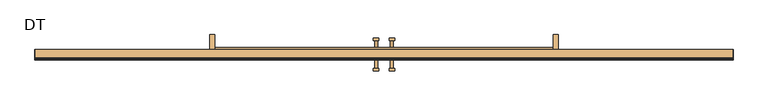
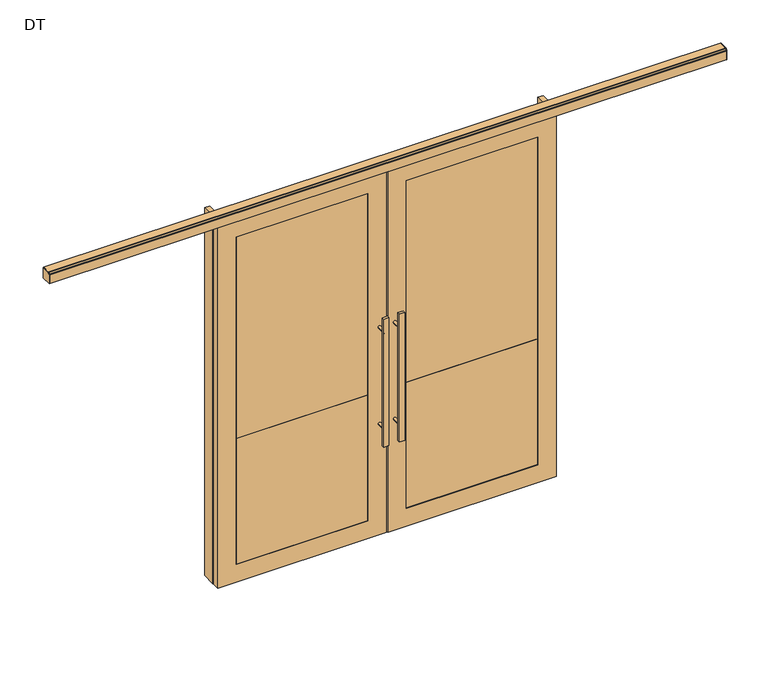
"""IFC4 building model written with IfcOpenShell, lengths in millimetres: door geometry, Mobiliário_Mobiliário de Escritório_Porta Dupla de Correr Mista Vidro Duplo com Persiana - DT_Marelli : DT."""

import ifcopenshell
import ifcopenshell.guid

model = None  # the IFC model being written
_history = None  # IfcOwnerHistory: only IFC2X3 demands one
_inside = {}  # id of a spatial element -> (the spatial element, [elements in it])
_under = {}  # id of a project, library or spatial element -> (it, [spatial elements below it])
_declared = {}  # id of a project -> (the project, [libraries it declares])
_typed = {}  # id of a type object -> (the type object, [elements of that type])
_made_of = {}  # id of a material, layer set ... -> (it, [elements and type objects made of it])


def new_model(schema):
    """Start an empty IFC model of exactly this schema.

    Asked for "IFC4X3", IfcOpenShell would pick the latest addendum, in which some entities
    have other attributes; the version numbers below select the first issue.
    IFC2X3 requires an IfcOwnerHistory on every rooted entity: one is made here for all.
    """
    global model, _history
    if schema == "IFC4X3":
        model = ifcopenshell.file(schema_version=(4, 3, 0, 0))
    else:
        model = ifcopenshell.file(schema=schema)
    _inside.clear()
    _under.clear()
    _declared.clear()
    _typed.clear()
    _made_of.clear()
    _history = None
    if model.schema == "IFC2X3":
        org = make("IfcOrganization", Name="unknown")
        user = make(
            "IfcPersonAndOrganization",
            ThePerson=make("IfcPerson", FamilyName="unknown"),
            TheOrganization=org,
        )
        app = make(
            "IfcApplication",
            ApplicationDeveloper=org,
            Version="unknown",
            ApplicationFullName="unknown",
            ApplicationIdentifier="unknown",
        )
        _history = make(
            "IfcOwnerHistory",
            OwningUser=user,
            OwningApplication=app,
            ChangeAction="ADDED",
            CreationDate=0,
        )
    return model


def make(cls, **values):
    """One entity of the class cls with the attributes given. An attribute that is None is left unset."""
    return model.create_entity(
        cls, **{name: value for name, value in values.items() if value is not None}
    )


def rooted(cls, **values):
    """An entity with a GlobalId (a new one), such as an element, a storey or a relation."""
    return make(cls, GlobalId=ifcopenshell.guid.new(), OwnerHistory=_history, **values)


def si_unit(unit_type, name, prefix=None):
    """IfcSIUnit, for example si_unit("LENGTHUNIT", "METRE", prefix="MILLI")."""
    return make("IfcSIUnit", UnitType=unit_type, Prefix=prefix, Name=name)


def assignment(units):
    """IfcUnitAssignment: the units of a project."""
    return None if units is None else make("IfcUnitAssignment", Units=units)


def point(xyz):
    """IfcCartesianPoint."""
    return None if xyz is None else make("IfcCartesianPoint", Coordinates=xyz)


def direction(xyz):
    """IfcDirection."""
    return None if xyz is None else make("IfcDirection", DirectionRatios=xyz)


def frame(location, z_axis=None, x_axis=None):
    """IfcAxis2Placement3D, a coordinate frame: its origin and axes. An axis left out is left unset."""
    return make(
        "IfcAxis2Placement3D",
        Location=point(location),
        Axis=direction(z_axis),
        RefDirection=direction(x_axis),
    )


def frame_2d(location, x_axis=None):
    """IfcAxis2Placement2D, a coordinate frame in the plane: its origin and x axis."""
    return make(
        "IfcAxis2Placement2D", Location=point(location), RefDirection=direction(x_axis)
    )


def origin():
    """The frame at (0, 0, 0) with its axes left unset."""
    return frame((0.0, 0.0, 0.0))


def origin_with_axes():
    """The frame at (0, 0, 0) with the z axis (0, 0, 1) and the x axis (1, 0, 0) written out."""
    return frame((0.0, 0.0, 0.0), z_axis=(0.0, 0.0, 1.0), x_axis=(1.0, 0.0, 0.0))


def place(relative_to, where):
    """IfcLocalPlacement: puts the frame where relative to a parent placement (None: the world)."""
    return make(
        "IfcLocalPlacement", PlacementRelTo=relative_to, RelativePlacement=where
    )


def context(
    kind, dimensions, precision=None, world=None, true_north=None, identifier=None
):
    """IfcGeometricRepresentationContext, for example the 3D "Model" context."""
    return make(
        "IfcGeometricRepresentationContext",
        ContextIdentifier=identifier,
        ContextType=kind,
        CoordinateSpaceDimension=dimensions,
        Precision=precision,
        WorldCoordinateSystem=world,
        TrueNorth=true_north,
    )


def project(units=None, contexts=None):
    """IfcProject with its units and contexts."""
    return rooted(
        "IfcProject",
        Name="project",
        RepresentationContexts=contexts,
        UnitsInContext=assignment(units),
    )


def spatial(cls, under=None, at=None, **own):
    """A site, building, storey or space (cls), placed at a placement, below another one or the project."""
    s = rooted(cls, ObjectPlacement=at, **own)
    if under is not None:
        _under.setdefault(under.id(), (under, []))[1].append(s)
    return s


def polyline(points):
    """IfcPolyline through the points."""
    return make("IfcPolyline", Points=[point(p) for p in points])


def circle_curve(where, radius):
    """IfcCircle in the frame where."""
    return make("IfcCircle", Position=where, Radius=radius)


def trimmed(basis, trim1, trim2, sense, master):
    """IfcTrimmedCurve: the piece of a basis curve between two trims."""
    return make(
        "IfcTrimmedCurve",
        BasisCurve=basis,
        Trim1=trim1,
        Trim2=trim2,
        SenseAgreement=sense,
        MasterRepresentation=master,
    )


def segment(curve, same_sense, transition):
    """IfcCompositeCurveSegment."""
    return make(
        "IfcCompositeCurveSegment",
        Transition=transition,
        SameSense=same_sense,
        ParentCurve=curve,
    )


def composite_curve(segments, self_intersect=None):
    """IfcCompositeCurve: segments joined end to end."""
    return make("IfcCompositeCurve", Segments=segments, SelfIntersect=self_intersect)


def outline(outer, holes=None, kind="AREA"):
    """IfcArbitraryClosedProfileDef: a profile drawn as a closed curve; with holes, ...WithVoids."""
    if holes is None:
        return make("IfcArbitraryClosedProfileDef", ProfileType=kind, OuterCurve=outer)
    return make(
        "IfcArbitraryProfileDefWithVoids",
        ProfileType=kind,
        OuterCurve=outer,
        InnerCurves=holes,
    )


def extrude(swept, where, along, depth):
    """IfcExtrudedAreaSolid: the profile swept, set in the frame where, extruded along a direction by depth."""
    return make(
        "IfcExtrudedAreaSolid",
        SweptArea=swept,
        Position=where,
        ExtrudedDirection=direction(along),
        Depth=depth,
    )


def shape(context_of_items, identifier, shape_type, items):
    """IfcShapeRepresentation: the items that make up one representation, for example the "Body"."""
    return make(
        "IfcShapeRepresentation",
        ContextOfItems=context_of_items,
        RepresentationIdentifier=identifier,
        RepresentationType=shape_type,
        Items=items,
    )


def source(mapping_origin, context_of_items, identifier, shape_type, items):
    """IfcRepresentationMap: a shape defined once, which mapped items show again and again."""
    return make(
        "IfcRepresentationMap",
        MappingOrigin=mapping_origin,
        MappedRepresentation=shape(context_of_items, identifier, shape_type, items),
    )


def transform(
    local_origin,
    x_axis=None,
    y_axis=None,
    z_axis=None,
    scale=None,
    scale2=None,
    scale3=None,
    uniform=True,
):
    """IfcCartesianTransformationOperator3D, or its non-uniform kind. x_axis, y_axis, z_axis: its Axis1, 2, 3."""
    if uniform:
        return make(
            "IfcCartesianTransformationOperator3D",
            Axis1=direction(x_axis),
            Axis2=direction(y_axis),
            LocalOrigin=point(local_origin),
            Scale=scale,
            Axis3=direction(z_axis),
        )
    return make(
        "IfcCartesianTransformationOperator3DnonUniform",
        Axis1=direction(x_axis),
        Axis2=direction(y_axis),
        LocalOrigin=point(local_origin),
        Scale=scale,
        Axis3=direction(z_axis),
        Scale2=scale2,
        Scale3=scale3,
    )


def mapped(mapping_source, mapping_target):
    """IfcMappedItem: shows the shape of a source again, moved by a transform."""
    return make(
        "IfcMappedItem", MappingSource=mapping_source, MappingTarget=mapping_target
    )


def made_of(thing, what):
    """Note that an element or type object is made of a material, layer set ...; save() writes the relation."""
    if what is not None:
        _made_of.setdefault(what.id(), (what, []))[1].append(thing)
    return thing


def element(
    cls,
    number,
    at=None,
    inside=None,
    cuts=None,
    type_object=None,
    material=None,
    context=None,
    identifier="Body",
    shape_type=None,
    held_by="IfcProductDefinitionShape",
    body=None,
    shapes=None,
    **own,
):
    """One element of the class cls, such as IfcWall. Its Tag is "e" and its number.

    at: its placement. inside: the storey or other place that contains it. cuts: it is an
    opening in that element (IfcRelVoidsElement). A single representation is given by context,
    identifier, shape_type and body (its items); several are given by shapes. held_by: the class
    of the entity that holds the representations. save() writes the other relations.
    """
    e = rooted(cls, Tag="e%d" % number, ObjectPlacement=at, **own)
    if body is not None:
        shapes = [shape(context, identifier, shape_type, body)]
    if shapes is not None:
        e.Representation = make(held_by, Representations=shapes)
    if inside is not None:
        _inside.setdefault(inside.id(), (inside, []))[1].append(e)
    if cuts is not None:
        rooted(
            "IfcRelVoidsElement", RelatingBuildingElement=cuts, RelatedOpeningElement=e
        )
    if type_object is not None:
        _typed.setdefault(type_object.id(), (type_object, []))[1].append(e)
    return made_of(e, material)


def aggregate(whole, parts):
    """IfcRelAggregates: a whole, such as a stair, and the parts it consists of."""
    return rooted("IfcRelAggregates", RelatingObject=whole, RelatedObjects=parts)


def save(model, path):
    """Write the relations noted so far, then the file.

    IfcRelAggregates (storeys below a building ...), IfcRelContainedInSpatialStructure (elements
    in a storey), IfcRelDefinesByType, IfcRelAssociatesMaterial and IfcRelDeclares: one each for
    every whole, place, type object, material and project.
    """
    for whole, parts in _under.values():
        aggregate(whole, parts)
    for where, things in _inside.values():
        rooted(
            "IfcRelContainedInSpatialStructure",
            RelatedElements=things,
            RelatingStructure=where,
        )
    for kind, things in _typed.values():
        rooted("IfcRelDefinesByType", RelatedObjects=things, RelatingType=kind)
    for what, things in _made_of.values():
        rooted("IfcRelAssociatesMaterial", RelatedObjects=things, RelatingMaterial=what)
    for by, libraries in _declared.values():
        rooted("IfcRelDeclares", RelatingContext=by, RelatedDefinitions=libraries)
    model.write(path)


def dt_20cca38d(model_context):
    return source(origin(), model_context, "Body", "SweptSolid", [
        extrude(outline(polyline([(348.5735443, -15.0), (378.5735443, -15.0), (378.5735443, -100.0), (348.5735443, -100.0), (348.5735443, -15.0)])), origin_with_axes(), (0.0, 0.0, 1.0), 2300.0),
        extrude(outline(polyline([(2348.5735443, -15.0), (2348.5735443, -100.0), (2318.5735443, -100.0), (2318.5735443, -15.0), (2348.5735443, -15.0)])), origin_with_axes(), (0.0, 0.0, 1.0), 2300.0),
        extrude(outline(polyline([(1287.4735443, -223.7), (1287.4735443, -208.7), (1317.4735443, -208.7), (1317.4735443, -223.7), (1287.4735443, -223.7)])), frame((0.0, 0.0, 600.0), z_axis=(0.0, 0.0, 1.0), x_axis=(1.0, 0.0, 0.0)), (0.0, 0.0, 1.0), 800.0),
        extrude(outline(composite_curve([segment(trimmed(circle_curve(frame_2d((698.0, 1303.6014077)), 8.0), [point((698.0, 1295.6014077))], [point((698.0, 1311.6014077))], False, "CARTESIAN"), True, "CONTINUOUS"), segment(trimmed(circle_curve(frame_2d((698.0, 1303.6014077)), 8.0), [point((698.0, 1311.6014077))], [point((698.0, 1295.6014077))], False, "CARTESIAN"), True, "CONTINUOUS")], self_intersect=False)), frame((0.0, -208.7, 0.0), z_axis=(0.0, 1.0, 0.0), x_axis=(0.0, 0.0, 1.0)), (0.0, 0.0, 1.0), 58.7),
        extrude(outline(composite_curve([segment(trimmed(circle_curve(frame_2d((1302.0, 1303.6014077)), 8.0), [point((1302.0, 1295.6014077))], [point((1302.0, 1311.6014077))], False, "CARTESIAN"), True, "CONTINUOUS"), segment(trimmed(circle_curve(frame_2d((1302.0, 1303.6014077)), 8.0), [point((1302.0, 1311.6014077))], [point((1302.0, 1295.6014077))], False, "CARTESIAN"), True, "CONTINUOUS")], self_intersect=False)), frame((0.0, -208.7, 0.0), z_axis=(0.0, 1.0, 0.0), x_axis=(0.0, 0.0, 1.0)), (0.0, 0.0, 1.0), 58.7),
        extrude(outline(polyline([(1287.4735443, -34.3), (1317.4735443, -34.3), (1317.4735443, -49.3), (1287.4735443, -49.3), (1287.4735443, -34.3)])), frame((0.0, 0.0, 600.0), z_axis=(0.0, 0.0, 1.0), x_axis=(1.0, 0.0, 0.0)), (0.0, 0.0, 1.0), 800.0),
        extrude(outline(composite_curve([segment(trimmed(circle_curve(frame_2d((698.0, 1303.6014077)), 8.0), [point((698.0, 1295.6014077))], [point((698.0, 1311.6014077))], False, "CARTESIAN"), True, "CONTINUOUS"), segment(trimmed(circle_curve(frame_2d((698.0, 1303.6014077)), 8.0), [point((698.0, 1311.6014077))], [point((698.0, 1295.6014077))], False, "CARTESIAN"), True, "CONTINUOUS")], self_intersect=False)), frame((0.0, -108.0, 0.0), z_axis=(0.0, 1.0, 0.0), x_axis=(0.0, 0.0, 1.0)), (0.0, 0.0, 1.0), 58.7),
        extrude(outline(composite_curve([segment(trimmed(circle_curve(frame_2d((1302.0, 1303.6014077)), 8.0), [point((1302.0, 1295.6014077))], [point((1302.0, 1311.6014077))], False, "CARTESIAN"), True, "CONTINUOUS"), segment(trimmed(circle_curve(frame_2d((1302.0, 1303.6014077)), 8.0), [point((1302.0, 1311.6014077))], [point((1302.0, 1295.6014077))], False, "CARTESIAN"), True, "CONTINUOUS")], self_intersect=False)), frame((0.0, -108.0, 0.0), z_axis=(0.0, 1.0, 0.0), x_axis=(0.0, 0.0, 1.0)), (0.0, 0.0, 1.0), 58.7),
        extrude(outline(polyline([(1409.6735443, -223.7), (1379.6735443, -223.7), (1379.6735443, -208.7), (1409.6735443, -208.7), (1409.6735443, -223.7)])), frame((0.0, 0.0, 600.0), z_axis=(0.0, 0.0, 1.0), x_axis=(1.0, 0.0, 0.0)), (0.0, 0.0, 1.0), 800.0),
        extrude(outline(composite_curve([segment(trimmed(circle_curve(frame_2d((698.0, 1393.545681)), 8.0), [point((698.0, 1401.545681))], [point((698.0, 1385.545681))], False, "CARTESIAN"), True, "CONTINUOUS"), segment(trimmed(circle_curve(frame_2d((698.0, 1393.545681)), 8.0), [point((698.0, 1385.545681))], [point((698.0, 1401.545681))], False, "CARTESIAN"), True, "CONTINUOUS")], self_intersect=False)), frame((0.0, -208.7, 0.0), z_axis=(0.0, 1.0, 0.0), x_axis=(0.0, 0.0, 1.0)), (0.0, 0.0, 1.0), 58.7),
        extrude(outline(composite_curve([segment(trimmed(circle_curve(frame_2d((1302.0, 1393.545681)), 8.0), [point((1302.0, 1401.545681))], [point((1302.0, 1385.545681))], False, "CARTESIAN"), True, "CONTINUOUS"), segment(trimmed(circle_curve(frame_2d((1302.0, 1393.545681)), 8.0), [point((1302.0, 1385.545681))], [point((1302.0, 1401.545681))], False, "CARTESIAN"), True, "CONTINUOUS")], self_intersect=False)), frame((0.0, -208.7, 0.0), z_axis=(0.0, 1.0, 0.0), x_axis=(0.0, 0.0, 1.0)), (0.0, 0.0, 1.0), 58.7),
        extrude(outline(polyline([(1409.6735443, -34.3), (1409.6735443, -49.3), (1379.6735443, -49.3), (1379.6735443, -34.3), (1409.6735443, -34.3)])), frame((0.0, 0.0, 600.0), z_axis=(0.0, 0.0, 1.0), x_axis=(1.0, 0.0, 0.0)), (0.0, 0.0, 1.0), 800.0),
        extrude(outline(composite_curve([segment(trimmed(circle_curve(frame_2d((698.0, 1393.545681)), 8.0), [point((698.0, 1401.545681))], [point((698.0, 1385.545681))], False, "CARTESIAN"), True, "CONTINUOUS"), segment(trimmed(circle_curve(frame_2d((698.0, 1393.545681)), 8.0), [point((698.0, 1385.545681))], [point((698.0, 1401.545681))], False, "CARTESIAN"), True, "CONTINUOUS")], self_intersect=False)), frame((0.0, -108.0, 0.0), z_axis=(0.0, 1.0, 0.0), x_axis=(0.0, 0.0, 1.0)), (0.0, 0.0, 1.0), 58.7),
        extrude(outline(composite_curve([segment(trimmed(circle_curve(frame_2d((1302.0, 1393.545681)), 8.0), [point((1302.0, 1401.545681))], [point((1302.0, 1385.545681))], False, "CARTESIAN"), True, "CONTINUOUS"), segment(trimmed(circle_curve(frame_2d((1302.0, 1393.545681)), 8.0), [point((1302.0, 1385.545681))], [point((1302.0, 1401.545681))], False, "CARTESIAN"), True, "CONTINUOUS")], self_intersect=False)), frame((0.0, -108.0, 0.0), z_axis=(0.0, 1.0, 0.0), x_axis=(0.0, 0.0, 1.0)), (0.0, 0.0, 1.0), 58.7),
        extrude(outline(polyline([(2270.0, 348.5735443), (2.0, 348.5735443), (2.0, 1345.5735443), (2270.0, 1345.5735443), (2270.0, 348.5735443)]), holes=[polyline([(2160.0, 1235.5735443), (112.0, 1235.5735443), (112.0, 458.5735443), (2160.0, 458.5735443), (2160.0, 1235.5735443)])]), frame((0.0, -150.0, 0.0), z_axis=(0.0, 1.0, 0.0), x_axis=(0.0, 0.0, 1.0)), (0.0, 0.0, 1.0), 42.0),
        extrude(outline(polyline([(2270.0, 1351.5735443), (2.0, 1351.5735443), (2.0, 2348.5735443), (2270.0, 2348.5735443), (2270.0, 1351.5735443)]), holes=[polyline([(2160.0, 2238.5735443), (112.0, 2238.5735443), (112.0, 1461.5735443), (2160.0, 1461.5735443), (2160.0, 2238.5735443)])]), frame((0.0, -150.0, 0.0), z_axis=(0.0, 1.0, 0.0), x_axis=(0.0, 0.0, 1.0)), (0.0, 0.0, 1.0), 42.0),
        extrude(outline(polyline([(1235.5735443, -141.5), (1235.5735443, -147.5), (458.5735443, -147.5), (458.5735443, -141.5), (1235.5735443, -141.5)])), frame((0.0, 0.0, 899.0), z_axis=(0.0, 0.0, 1.0), x_axis=(1.0, 0.0, 0.0)), (0.0, 0.0, 1.0), 1261.0),
        extrude(outline(polyline([(1235.5735443, -116.5), (458.5735443, -116.5), (458.5735443, -110.5), (1235.5735443, -110.5), (1235.5735443, -116.5)])), frame((0.0, 0.0, 899.0), z_axis=(0.0, 0.0, 1.0), x_axis=(1.0, 0.0, 0.0)), (0.0, 0.0, 1.0), 1261.0),
        extrude(outline(polyline([(1461.5735443, -141.5), (2238.5735443, -141.5), (2238.5735443, -147.5), (1461.5735443, -147.5), (1461.5735443, -141.5)])), frame((0.0, 0.0, 899.0), z_axis=(0.0, 0.0, 1.0), x_axis=(1.0, 0.0, 0.0)), (0.0, 0.0, 1.0), 1261.0),
        extrude(outline(polyline([(1461.5735443, -116.5), (1461.5735443, -110.5), (2238.5735443, -110.5), (2238.5735443, -116.5), (1461.5735443, -116.5)])), frame((0.0, 0.0, 899.0), z_axis=(0.0, 0.0, 1.0), x_axis=(1.0, 0.0, 0.0)), (0.0, 0.0, 1.0), 1261.0),
        extrude(outline(polyline([(1235.5735443, -122.1216022), (1235.5735443, -138.1216022), (458.5735443, -138.1216022), (458.5735443, -122.1216022), (1235.5735443, -122.1216022)])), frame((0.0, 0.0, 1181.2), z_axis=(0.0, 0.0, 1.0), x_axis=(1.0, 0.0, 0.0)), (0.0, 0.0, 1.0), 0.8),
        extrude(outline(polyline([(1235.5735443, -122.1216022), (1235.5735443, -138.1216022), (458.5735443, -138.1216022), (458.5735443, -122.1216022), (1235.5735443, -122.1216022)])), frame((0.0, 0.0, 1151.2), z_axis=(0.0, 0.0, 1.0), x_axis=(1.0, 0.0, 0.0)), (0.0, 0.0, 1.0), 0.8),
        extrude(outline(polyline([(1235.5735443, -122.1216022), (1235.5735443, -138.1216022), (458.5735443, -138.1216022), (458.5735443, -122.1216022), (1235.5735443, -122.1216022)])), frame((0.0, 0.0, 1121.2), z_axis=(0.0, 0.0, 1.0), x_axis=(1.0, 0.0, 0.0)), (0.0, 0.0, 1.0), 0.8),
        extrude(outline(polyline([(1235.5735443, -122.1216022), (1235.5735443, -138.1216022), (458.5735443, -138.1216022), (458.5735443, -122.1216022), (1235.5735443, -122.1216022)])), frame((0.0, 0.0, 1091.2), z_axis=(0.0, 0.0, 1.0), x_axis=(1.0, 0.0, 0.0)), (0.0, 0.0, 1.0), 0.8),
        extrude(outline(polyline([(1235.5735443, -122.1216022), (1235.5735443, -138.1216022), (458.5735443, -138.1216022), (458.5735443, -122.1216022), (1235.5735443, -122.1216022)])), frame((0.0, 0.0, 1061.2), z_axis=(0.0, 0.0, 1.0), x_axis=(1.0, 0.0, 0.0)), (0.0, 0.0, 1.0), 0.8),
        extrude(outline(polyline([(1235.5735443, -122.1216022), (1235.5735443, -138.1216022), (458.5735443, -138.1216022), (458.5735443, -122.1216022), (1235.5735443, -122.1216022)])), frame((0.0, 0.0, 1031.2), z_axis=(0.0, 0.0, 1.0), x_axis=(1.0, 0.0, 0.0)), (0.0, 0.0, 1.0), 0.8),
        extrude(outline(polyline([(1235.5735443, -122.1216022), (1235.5735443, -138.1216022), (458.5735443, -138.1216022), (458.5735443, -122.1216022), (1235.5735443, -122.1216022)])), frame((0.0, 0.0, 1001.2), z_axis=(0.0, 0.0, 1.0), x_axis=(1.0, 0.0, 0.0)), (0.0, 0.0, 1.0), 0.8),
        extrude(outline(polyline([(1235.5735443, -122.1216022), (1235.5735443, -138.1216022), (458.5735443, -138.1216022), (458.5735443, -122.1216022), (1235.5735443, -122.1216022)])), frame((0.0, 0.0, 971.2), z_axis=(0.0, 0.0, 1.0), x_axis=(1.0, 0.0, 0.0)), (0.0, 0.0, 1.0), 0.8),
        extrude(outline(polyline([(1235.5735443, -122.1216022), (1235.5735443, -138.1216022), (458.5735443, -138.1216022), (458.5735443, -122.1216022), (1235.5735443, -122.1216022)])), frame((0.0, 0.0, 911.2), z_axis=(0.0, 0.0, 1.0), x_axis=(1.0, 0.0, 0.0)), (0.0, 0.0, 1.0), 0.8),
        extrude(outline(polyline([(1235.5735443, -122.1216022), (1235.5735443, -138.1216022), (458.5735443, -138.1216022), (458.5735443, -122.1216022), (1235.5735443, -122.1216022)])), frame((0.0, 0.0, 941.2), z_axis=(0.0, 0.0, 1.0), x_axis=(1.0, 0.0, 0.0)), (0.0, 0.0, 1.0), 0.8),
        extrude(outline(polyline([(1235.5735443, -122.1216022), (1235.5735443, -138.1216022), (458.5735443, -138.1216022), (458.5735443, -122.1216022), (1235.5735443, -122.1216022)])), frame((0.0, 0.0, 2111.2), z_axis=(0.0, 0.0, 1.0), x_axis=(1.0, 0.0, 0.0)), (0.0, 0.0, 1.0), 0.8),
        extrude(outline(polyline([(1235.5735443, -122.1216022), (1235.5735443, -138.1216022), (458.5735443, -138.1216022), (458.5735443, -122.1216022), (1235.5735443, -122.1216022)])), frame((0.0, 0.0, 2081.2), z_axis=(0.0, 0.0, 1.0), x_axis=(1.0, 0.0, 0.0)), (0.0, 0.0, 1.0), 0.8),
        extrude(outline(polyline([(1235.5735443, -122.1216022), (1235.5735443, -138.1216022), (458.5735443, -138.1216022), (458.5735443, -122.1216022), (1235.5735443, -122.1216022)])), frame((0.0, 0.0, 2051.2), z_axis=(0.0, 0.0, 1.0), x_axis=(1.0, 0.0, 0.0)), (0.0, 0.0, 1.0), 0.8),
        extrude(outline(polyline([(1235.5735443, -122.1216022), (1235.5735443, -138.1216022), (458.5735443, -138.1216022), (458.5735443, -122.1216022), (1235.5735443, -122.1216022)])), frame((0.0, 0.0, 2021.2), z_axis=(0.0, 0.0, 1.0), x_axis=(1.0, 0.0, 0.0)), (0.0, 0.0, 1.0), 0.8),
        extrude(outline(polyline([(1235.5735443, -122.1216022), (1235.5735443, -138.1216022), (458.5735443, -138.1216022), (458.5735443, -122.1216022), (1235.5735443, -122.1216022)])), frame((0.0, 0.0, 1991.2), z_axis=(0.0, 0.0, 1.0), x_axis=(1.0, 0.0, 0.0)), (0.0, 0.0, 1.0), 0.8),
        extrude(outline(polyline([(1235.5735443, -122.1216022), (1235.5735443, -138.1216022), (458.5735443, -138.1216022), (458.5735443, -122.1216022), (1235.5735443, -122.1216022)])), frame((0.0, 0.0, 1961.2), z_axis=(0.0, 0.0, 1.0), x_axis=(1.0, 0.0, 0.0)), (0.0, 0.0, 1.0), 0.8),
        extrude(outline(polyline([(1235.5735443, -122.1216022), (1235.5735443, -138.1216022), (458.5735443, -138.1216022), (458.5735443, -122.1216022), (1235.5735443, -122.1216022)])), frame((0.0, 0.0, 1931.2), z_axis=(0.0, 0.0, 1.0), x_axis=(1.0, 0.0, 0.0)), (0.0, 0.0, 1.0), 0.8),
        extrude(outline(polyline([(1235.5735443, -122.1216022), (1235.5735443, -138.1216022), (458.5735443, -138.1216022), (458.5735443, -122.1216022), (1235.5735443, -122.1216022)])), frame((0.0, 0.0, 1901.2), z_axis=(0.0, 0.0, 1.0), x_axis=(1.0, 0.0, 0.0)), (0.0, 0.0, 1.0), 0.8),
        extrude(outline(polyline([(1235.5735443, -122.1216022), (1235.5735443, -138.1216022), (458.5735443, -138.1216022), (458.5735443, -122.1216022), (1235.5735443, -122.1216022)])), frame((0.0, 0.0, 1871.2), z_axis=(0.0, 0.0, 1.0), x_axis=(1.0, 0.0, 0.0)), (0.0, 0.0, 1.0), 0.8),
        extrude(outline(polyline([(1235.5735443, -122.1216022), (1235.5735443, -138.1216022), (458.5735443, -138.1216022), (458.5735443, -122.1216022), (1235.5735443, -122.1216022)])), frame((0.0, 0.0, 1841.2), z_axis=(0.0, 0.0, 1.0), x_axis=(1.0, 0.0, 0.0)), (0.0, 0.0, 1.0), 0.8),
        extrude(outline(polyline([(1235.5735443, -122.1216022), (1235.5735443, -138.1216022), (458.5735443, -138.1216022), (458.5735443, -122.1216022), (1235.5735443, -122.1216022)])), frame((0.0, 0.0, 1811.2), z_axis=(0.0, 0.0, 1.0), x_axis=(1.0, 0.0, 0.0)), (0.0, 0.0, 1.0), 0.8),
        extrude(outline(polyline([(1235.5735443, -122.1216022), (1235.5735443, -138.1216022), (458.5735443, -138.1216022), (458.5735443, -122.1216022), (1235.5735443, -122.1216022)])), frame((0.0, 0.0, 1781.2), z_axis=(0.0, 0.0, 1.0), x_axis=(1.0, 0.0, 0.0)), (0.0, 0.0, 1.0), 0.8),
        extrude(outline(polyline([(1235.5735443, -122.1216022), (1235.5735443, -138.1216022), (458.5735443, -138.1216022), (458.5735443, -122.1216022), (1235.5735443, -122.1216022)])), frame((0.0, 0.0, 1751.2), z_axis=(0.0, 0.0, 1.0), x_axis=(1.0, 0.0, 0.0)), (0.0, 0.0, 1.0), 0.8),
        extrude(outline(polyline([(1235.5735443, -122.1216022), (1235.5735443, -138.1216022), (458.5735443, -138.1216022), (458.5735443, -122.1216022), (1235.5735443, -122.1216022)])), frame((0.0, 0.0, 1721.2), z_axis=(0.0, 0.0, 1.0), x_axis=(1.0, 0.0, 0.0)), (0.0, 0.0, 1.0), 0.8),
        extrude(outline(polyline([(1235.5735443, -122.1216022), (1235.5735443, -138.1216022), (458.5735443, -138.1216022), (458.5735443, -122.1216022), (1235.5735443, -122.1216022)])), frame((0.0, 0.0, 1691.2), z_axis=(0.0, 0.0, 1.0), x_axis=(1.0, 0.0, 0.0)), (0.0, 0.0, 1.0), 0.8),
        extrude(outline(polyline([(1235.5735443, -122.1216022), (1235.5735443, -138.1216022), (458.5735443, -138.1216022), (458.5735443, -122.1216022), (1235.5735443, -122.1216022)])), frame((0.0, 0.0, 1661.2), z_axis=(0.0, 0.0, 1.0), x_axis=(1.0, 0.0, 0.0)), (0.0, 0.0, 1.0), 0.8),
        extrude(outline(polyline([(1235.5735443, -122.1216022), (1235.5735443, -138.1216022), (458.5735443, -138.1216022), (458.5735443, -122.1216022), (1235.5735443, -122.1216022)])), frame((0.0, 0.0, 1631.2), z_axis=(0.0, 0.0, 1.0), x_axis=(1.0, 0.0, 0.0)), (0.0, 0.0, 1.0), 0.8),
        extrude(outline(polyline([(1235.5735443, -122.1216022), (1235.5735443, -138.1216022), (458.5735443, -138.1216022), (458.5735443, -122.1216022), (1235.5735443, -122.1216022)])), frame((0.0, 0.0, 1601.2), z_axis=(0.0, 0.0, 1.0), x_axis=(1.0, 0.0, 0.0)), (0.0, 0.0, 1.0), 0.8),
        extrude(outline(polyline([(1235.5735443, -122.1216022), (1235.5735443, -138.1216022), (458.5735443, -138.1216022), (458.5735443, -122.1216022), (1235.5735443, -122.1216022)])), frame((0.0, 0.0, 1571.2), z_axis=(0.0, 0.0, 1.0), x_axis=(1.0, 0.0, 0.0)), (0.0, 0.0, 1.0), 0.8),
        extrude(outline(polyline([(1235.5735443, -122.1216022), (1235.5735443, -138.1216022), (458.5735443, -138.1216022), (458.5735443, -122.1216022), (1235.5735443, -122.1216022)])), frame((0.0, 0.0, 1541.2), z_axis=(0.0, 0.0, 1.0), x_axis=(1.0, 0.0, 0.0)), (0.0, 0.0, 1.0), 0.8),
        extrude(outline(polyline([(1235.5735443, -122.1216022), (1235.5735443, -138.1216022), (458.5735443, -138.1216022), (458.5735443, -122.1216022), (1235.5735443, -122.1216022)])), frame((0.0, 0.0, 1511.2), z_axis=(0.0, 0.0, 1.0), x_axis=(1.0, 0.0, 0.0)), (0.0, 0.0, 1.0), 0.8),
        extrude(outline(polyline([(1235.5735443, -122.1216022), (1235.5735443, -138.1216022), (458.5735443, -138.1216022), (458.5735443, -122.1216022), (1235.5735443, -122.1216022)])), frame((0.0, 0.0, 1481.2), z_axis=(0.0, 0.0, 1.0), x_axis=(1.0, 0.0, 0.0)), (0.0, 0.0, 1.0), 0.8),
        extrude(outline(polyline([(1235.5735443, -122.1216022), (1235.5735443, -138.1216022), (458.5735443, -138.1216022), (458.5735443, -122.1216022), (1235.5735443, -122.1216022)])), frame((0.0, 0.0, 1451.2), z_axis=(0.0, 0.0, 1.0), x_axis=(1.0, 0.0, 0.0)), (0.0, 0.0, 1.0), 0.8),
        extrude(outline(polyline([(1235.5735443, -122.1216022), (1235.5735443, -138.1216022), (458.5735443, -138.1216022), (458.5735443, -122.1216022), (1235.5735443, -122.1216022)])), frame((0.0, 0.0, 1421.2), z_axis=(0.0, 0.0, 1.0), x_axis=(1.0, 0.0, 0.0)), (0.0, 0.0, 1.0), 0.8),
        extrude(outline(polyline([(1235.5735443, -122.1216022), (1235.5735443, -138.1216022), (458.5735443, -138.1216022), (458.5735443, -122.1216022), (1235.5735443, -122.1216022)])), frame((0.0, 0.0, 1391.2), z_axis=(0.0, 0.0, 1.0), x_axis=(1.0, 0.0, 0.0)), (0.0, 0.0, 1.0), 0.8),
        extrude(outline(polyline([(1235.5735443, -122.1216022), (1235.5735443, -138.1216022), (458.5735443, -138.1216022), (458.5735443, -122.1216022), (1235.5735443, -122.1216022)])), frame((0.0, 0.0, 1361.2), z_axis=(0.0, 0.0, 1.0), x_axis=(1.0, 0.0, 0.0)), (0.0, 0.0, 1.0), 0.8),
        extrude(outline(polyline([(1235.5735443, -122.1216022), (1235.5735443, -138.1216022), (458.5735443, -138.1216022), (458.5735443, -122.1216022), (1235.5735443, -122.1216022)])), frame((0.0, 0.0, 1331.2), z_axis=(0.0, 0.0, 1.0), x_axis=(1.0, 0.0, 0.0)), (0.0, 0.0, 1.0), 0.8),
        extrude(outline(polyline([(1235.5735443, -122.1216022), (1235.5735443, -138.1216022), (458.5735443, -138.1216022), (458.5735443, -122.1216022), (1235.5735443, -122.1216022)])), frame((0.0, 0.0, 1301.2), z_axis=(0.0, 0.0, 1.0), x_axis=(1.0, 0.0, 0.0)), (0.0, 0.0, 1.0), 0.8),
        extrude(outline(polyline([(1235.5735443, -122.1216022), (1235.5735443, -138.1216022), (458.5735443, -138.1216022), (458.5735443, -122.1216022), (1235.5735443, -122.1216022)])), frame((0.0, 0.0, 1271.2), z_axis=(0.0, 0.0, 1.0), x_axis=(1.0, 0.0, 0.0)), (0.0, 0.0, 1.0), 0.8),
        extrude(outline(polyline([(1235.5735443, -122.1216022), (1235.5735443, -138.1216022), (458.5735443, -138.1216022), (458.5735443, -122.1216022), (1235.5735443, -122.1216022)])), frame((0.0, 0.0, 1241.2), z_axis=(0.0, 0.0, 1.0), x_axis=(1.0, 0.0, 0.0)), (0.0, 0.0, 1.0), 0.8),
        extrude(outline(polyline([(1235.5735443, -122.1216022), (1235.5735443, -138.1216022), (458.5735443, -138.1216022), (458.5735443, -122.1216022), (1235.5735443, -122.1216022)])), frame((0.0, 0.0, 1211.2), z_axis=(0.0, 0.0, 1.0), x_axis=(1.0, 0.0, 0.0)), (0.0, 0.0, 1.0), 0.8),
        extrude(outline(polyline([(1461.5735443, -138.1216022), (1461.5735443, -122.1216022), (2238.5735443, -122.1216022), (2238.5735443, -138.1216022), (1461.5735443, -138.1216022)])), frame((0.0, 0.0, 1181.2), z_axis=(0.0, 0.0, 1.0), x_axis=(1.0, 0.0, 0.0)), (0.0, 0.0, 1.0), 0.8),
        extrude(outline(polyline([(1461.5735443, -138.1216022), (1461.5735443, -122.1216022), (2238.5735443, -122.1216022), (2238.5735443, -138.1216022), (1461.5735443, -138.1216022)])), frame((0.0, 0.0, 1151.2), z_axis=(0.0, 0.0, 1.0), x_axis=(1.0, 0.0, 0.0)), (0.0, 0.0, 1.0), 0.8),
        extrude(outline(polyline([(1461.5735443, -138.1216022), (1461.5735443, -122.1216022), (2238.5735443, -122.1216022), (2238.5735443, -138.1216022), (1461.5735443, -138.1216022)])), frame((0.0, 0.0, 1121.2), z_axis=(0.0, 0.0, 1.0), x_axis=(1.0, 0.0, 0.0)), (0.0, 0.0, 1.0), 0.8),
        extrude(outline(polyline([(1461.5735443, -138.1216022), (1461.5735443, -122.1216022), (2238.5735443, -122.1216022), (2238.5735443, -138.1216022), (1461.5735443, -138.1216022)])), frame((0.0, 0.0, 1091.2), z_axis=(0.0, 0.0, 1.0), x_axis=(1.0, 0.0, 0.0)), (0.0, 0.0, 1.0), 0.8),
        extrude(outline(polyline([(1461.5735443, -138.1216022), (1461.5735443, -122.1216022), (2238.5735443, -122.1216022), (2238.5735443, -138.1216022), (1461.5735443, -138.1216022)])), frame((0.0, 0.0, 1061.2), z_axis=(0.0, 0.0, 1.0), x_axis=(1.0, 0.0, 0.0)), (0.0, 0.0, 1.0), 0.8),
        extrude(outline(polyline([(1461.5735443, -138.1216022), (1461.5735443, -122.1216022), (2238.5735443, -122.1216022), (2238.5735443, -138.1216022), (1461.5735443, -138.1216022)])), frame((0.0, 0.0, 1031.2), z_axis=(0.0, 0.0, 1.0), x_axis=(1.0, 0.0, 0.0)), (0.0, 0.0, 1.0), 0.8),
        extrude(outline(polyline([(1461.5735443, -138.1216022), (1461.5735443, -122.1216022), (2238.5735443, -122.1216022), (2238.5735443, -138.1216022), (1461.5735443, -138.1216022)])), frame((0.0, 0.0, 1001.2), z_axis=(0.0, 0.0, 1.0), x_axis=(1.0, 0.0, 0.0)), (0.0, 0.0, 1.0), 0.8),
        extrude(outline(polyline([(1461.5735443, -138.1216022), (1461.5735443, -122.1216022), (2238.5735443, -122.1216022), (2238.5735443, -138.1216022), (1461.5735443, -138.1216022)])), frame((0.0, 0.0, 971.2), z_axis=(0.0, 0.0, 1.0), x_axis=(1.0, 0.0, 0.0)), (0.0, 0.0, 1.0), 0.8),
        extrude(outline(polyline([(1461.5735443, -138.1216022), (1461.5735443, -122.1216022), (2238.5735443, -122.1216022), (2238.5735443, -138.1216022), (1461.5735443, -138.1216022)])), frame((0.0, 0.0, 911.2), z_axis=(0.0, 0.0, 1.0), x_axis=(1.0, 0.0, 0.0)), (0.0, 0.0, 1.0), 0.8),
        extrude(outline(polyline([(1461.5735443, -138.1216022), (1461.5735443, -122.1216022), (2238.5735443, -122.1216022), (2238.5735443, -138.1216022), (1461.5735443, -138.1216022)])), frame((0.0, 0.0, 941.2), z_axis=(0.0, 0.0, 1.0), x_axis=(1.0, 0.0, 0.0)), (0.0, 0.0, 1.0), 0.8),
        extrude(outline(polyline([(1461.5735443, -138.1216022), (1461.5735443, -122.1216022), (2238.5735443, -122.1216022), (2238.5735443, -138.1216022), (1461.5735443, -138.1216022)])), frame((0.0, 0.0, 2111.2), z_axis=(0.0, 0.0, 1.0), x_axis=(1.0, 0.0, 0.0)), (0.0, 0.0, 1.0), 0.8),
        extrude(outline(polyline([(1461.5735443, -138.1216022), (1461.5735443, -122.1216022), (2238.5735443, -122.1216022), (2238.5735443, -138.1216022), (1461.5735443, -138.1216022)])), frame((0.0, 0.0, 2081.2), z_axis=(0.0, 0.0, 1.0), x_axis=(1.0, 0.0, 0.0)), (0.0, 0.0, 1.0), 0.8),
        extrude(outline(polyline([(1461.5735443, -138.1216022), (1461.5735443, -122.1216022), (2238.5735443, -122.1216022), (2238.5735443, -138.1216022), (1461.5735443, -138.1216022)])), frame((0.0, 0.0, 2051.2), z_axis=(0.0, 0.0, 1.0), x_axis=(1.0, 0.0, 0.0)), (0.0, 0.0, 1.0), 0.8),
        extrude(outline(polyline([(1461.5735443, -138.1216022), (1461.5735443, -122.1216022), (2238.5735443, -122.1216022), (2238.5735443, -138.1216022), (1461.5735443, -138.1216022)])), frame((0.0, 0.0, 2021.2), z_axis=(0.0, 0.0, 1.0), x_axis=(1.0, 0.0, 0.0)), (0.0, 0.0, 1.0), 0.8),
        extrude(outline(polyline([(1461.5735443, -138.1216022), (1461.5735443, -122.1216022), (2238.5735443, -122.1216022), (2238.5735443, -138.1216022), (1461.5735443, -138.1216022)])), frame((0.0, 0.0, 1991.2), z_axis=(0.0, 0.0, 1.0), x_axis=(1.0, 0.0, 0.0)), (0.0, 0.0, 1.0), 0.8),
        extrude(outline(polyline([(1461.5735443, -138.1216022), (1461.5735443, -122.1216022), (2238.5735443, -122.1216022), (2238.5735443, -138.1216022), (1461.5735443, -138.1216022)])), frame((0.0, 0.0, 1961.2), z_axis=(0.0, 0.0, 1.0), x_axis=(1.0, 0.0, 0.0)), (0.0, 0.0, 1.0), 0.8),
        extrude(outline(polyline([(1461.5735443, -138.1216022), (1461.5735443, -122.1216022), (2238.5735443, -122.1216022), (2238.5735443, -138.1216022), (1461.5735443, -138.1216022)])), frame((0.0, 0.0, 1931.2), z_axis=(0.0, 0.0, 1.0), x_axis=(1.0, 0.0, 0.0)), (0.0, 0.0, 1.0), 0.8),
        extrude(outline(polyline([(1461.5735443, -138.1216022), (1461.5735443, -122.1216022), (2238.5735443, -122.1216022), (2238.5735443, -138.1216022), (1461.5735443, -138.1216022)])), frame((0.0, 0.0, 1901.2), z_axis=(0.0, 0.0, 1.0), x_axis=(1.0, 0.0, 0.0)), (0.0, 0.0, 1.0), 0.8),
        extrude(outline(polyline([(1461.5735443, -138.1216022), (1461.5735443, -122.1216022), (2238.5735443, -122.1216022), (2238.5735443, -138.1216022), (1461.5735443, -138.1216022)])), frame((0.0, 0.0, 1871.2), z_axis=(0.0, 0.0, 1.0), x_axis=(1.0, 0.0, 0.0)), (0.0, 0.0, 1.0), 0.8),
        extrude(outline(polyline([(1461.5735443, -138.1216022), (1461.5735443, -122.1216022), (2238.5735443, -122.1216022), (2238.5735443, -138.1216022), (1461.5735443, -138.1216022)])), frame((0.0, 0.0, 1841.2), z_axis=(0.0, 0.0, 1.0), x_axis=(1.0, 0.0, 0.0)), (0.0, 0.0, 1.0), 0.8),
        extrude(outline(polyline([(1461.5735443, -138.1216022), (1461.5735443, -122.1216022), (2238.5735443, -122.1216022), (2238.5735443, -138.1216022), (1461.5735443, -138.1216022)])), frame((0.0, 0.0, 1811.2), z_axis=(0.0, 0.0, 1.0), x_axis=(1.0, 0.0, 0.0)), (0.0, 0.0, 1.0), 0.8),
        extrude(outline(polyline([(1461.5735443, -138.1216022), (1461.5735443, -122.1216022), (2238.5735443, -122.1216022), (2238.5735443, -138.1216022), (1461.5735443, -138.1216022)])), frame((0.0, 0.0, 1781.2), z_axis=(0.0, 0.0, 1.0), x_axis=(1.0, 0.0, 0.0)), (0.0, 0.0, 1.0), 0.8),
        extrude(outline(polyline([(1461.5735443, -138.1216022), (1461.5735443, -122.1216022), (2238.5735443, -122.1216022), (2238.5735443, -138.1216022), (1461.5735443, -138.1216022)])), frame((0.0, 0.0, 1751.2), z_axis=(0.0, 0.0, 1.0), x_axis=(1.0, 0.0, 0.0)), (0.0, 0.0, 1.0), 0.8),
        extrude(outline(polyline([(1461.5735443, -138.1216022), (1461.5735443, -122.1216022), (2238.5735443, -122.1216022), (2238.5735443, -138.1216022), (1461.5735443, -138.1216022)])), frame((0.0, 0.0, 1721.2), z_axis=(0.0, 0.0, 1.0), x_axis=(1.0, 0.0, 0.0)), (0.0, 0.0, 1.0), 0.8),
        extrude(outline(polyline([(1461.5735443, -138.1216022), (1461.5735443, -122.1216022), (2238.5735443, -122.1216022), (2238.5735443, -138.1216022), (1461.5735443, -138.1216022)])), frame((0.0, 0.0, 1691.2), z_axis=(0.0, 0.0, 1.0), x_axis=(1.0, 0.0, 0.0)), (0.0, 0.0, 1.0), 0.8),
        extrude(outline(polyline([(1461.5735443, -138.1216022), (1461.5735443, -122.1216022), (2238.5735443, -122.1216022), (2238.5735443, -138.1216022), (1461.5735443, -138.1216022)])), frame((0.0, 0.0, 1661.2), z_axis=(0.0, 0.0, 1.0), x_axis=(1.0, 0.0, 0.0)), (0.0, 0.0, 1.0), 0.8),
        extrude(outline(polyline([(1461.5735443, -138.1216022), (1461.5735443, -122.1216022), (2238.5735443, -122.1216022), (2238.5735443, -138.1216022), (1461.5735443, -138.1216022)])), frame((0.0, 0.0, 1631.2), z_axis=(0.0, 0.0, 1.0), x_axis=(1.0, 0.0, 0.0)), (0.0, 0.0, 1.0), 0.8),
        extrude(outline(polyline([(1461.5735443, -138.1216022), (1461.5735443, -122.1216022), (2238.5735443, -122.1216022), (2238.5735443, -138.1216022), (1461.5735443, -138.1216022)])), frame((0.0, 0.0, 1601.2), z_axis=(0.0, 0.0, 1.0), x_axis=(1.0, 0.0, 0.0)), (0.0, 0.0, 1.0), 0.8),
        extrude(outline(polyline([(1461.5735443, -138.1216022), (1461.5735443, -122.1216022), (2238.5735443, -122.1216022), (2238.5735443, -138.1216022), (1461.5735443, -138.1216022)])), frame((0.0, 0.0, 1571.2), z_axis=(0.0, 0.0, 1.0), x_axis=(1.0, 0.0, 0.0)), (0.0, 0.0, 1.0), 0.8),
        extrude(outline(polyline([(1461.5735443, -138.1216022), (1461.5735443, -122.1216022), (2238.5735443, -122.1216022), (2238.5735443, -138.1216022), (1461.5735443, -138.1216022)])), frame((0.0, 0.0, 1541.2), z_axis=(0.0, 0.0, 1.0), x_axis=(1.0, 0.0, 0.0)), (0.0, 0.0, 1.0), 0.8),
        extrude(outline(polyline([(1461.5735443, -138.1216022), (1461.5735443, -122.1216022), (2238.5735443, -122.1216022), (2238.5735443, -138.1216022), (1461.5735443, -138.1216022)])), frame((0.0, 0.0, 1511.2), z_axis=(0.0, 0.0, 1.0), x_axis=(1.0, 0.0, 0.0)), (0.0, 0.0, 1.0), 0.8),
        extrude(outline(polyline([(1461.5735443, -138.1216022), (1461.5735443, -122.1216022), (2238.5735443, -122.1216022), (2238.5735443, -138.1216022), (1461.5735443, -138.1216022)])), frame((0.0, 0.0, 1481.2), z_axis=(0.0, 0.0, 1.0), x_axis=(1.0, 0.0, 0.0)), (0.0, 0.0, 1.0), 0.8),
        extrude(outline(polyline([(1461.5735443, -138.1216022), (1461.5735443, -122.1216022), (2238.5735443, -122.1216022), (2238.5735443, -138.1216022), (1461.5735443, -138.1216022)])), frame((0.0, 0.0, 1451.2), z_axis=(0.0, 0.0, 1.0), x_axis=(1.0, 0.0, 0.0)), (0.0, 0.0, 1.0), 0.8),
        extrude(outline(polyline([(1461.5735443, -138.1216022), (1461.5735443, -122.1216022), (2238.5735443, -122.1216022), (2238.5735443, -138.1216022), (1461.5735443, -138.1216022)])), frame((0.0, 0.0, 1421.2), z_axis=(0.0, 0.0, 1.0), x_axis=(1.0, 0.0, 0.0)), (0.0, 0.0, 1.0), 0.8),
        extrude(outline(polyline([(1461.5735443, -138.1216022), (1461.5735443, -122.1216022), (2238.5735443, -122.1216022), (2238.5735443, -138.1216022), (1461.5735443, -138.1216022)])), frame((0.0, 0.0, 1391.2), z_axis=(0.0, 0.0, 1.0), x_axis=(1.0, 0.0, 0.0)), (0.0, 0.0, 1.0), 0.8),
        extrude(outline(polyline([(1461.5735443, -138.1216022), (1461.5735443, -122.1216022), (2238.5735443, -122.1216022), (2238.5735443, -138.1216022), (1461.5735443, -138.1216022)])), frame((0.0, 0.0, 1361.2), z_axis=(0.0, 0.0, 1.0), x_axis=(1.0, 0.0, 0.0)), (0.0, 0.0, 1.0), 0.8),
        extrude(outline(polyline([(1461.5735443, -138.1216022), (1461.5735443, -122.1216022), (2238.5735443, -122.1216022), (2238.5735443, -138.1216022), (1461.5735443, -138.1216022)])), frame((0.0, 0.0, 1331.2), z_axis=(0.0, 0.0, 1.0), x_axis=(1.0, 0.0, 0.0)), (0.0, 0.0, 1.0), 0.8),
        extrude(outline(polyline([(1461.5735443, -138.1216022), (1461.5735443, -122.1216022), (2238.5735443, -122.1216022), (2238.5735443, -138.1216022), (1461.5735443, -138.1216022)])), frame((0.0, 0.0, 1301.2), z_axis=(0.0, 0.0, 1.0), x_axis=(1.0, 0.0, 0.0)), (0.0, 0.0, 1.0), 0.8),
        extrude(outline(polyline([(1461.5735443, -138.1216022), (1461.5735443, -122.1216022), (2238.5735443, -122.1216022), (2238.5735443, -138.1216022), (1461.5735443, -138.1216022)])), frame((0.0, 0.0, 1271.2), z_axis=(0.0, 0.0, 1.0), x_axis=(1.0, 0.0, 0.0)), (0.0, 0.0, 1.0), 0.8),
        extrude(outline(polyline([(1461.5735443, -138.1216022), (1461.5735443, -122.1216022), (2238.5735443, -122.1216022), (2238.5735443, -138.1216022), (1461.5735443, -138.1216022)])), frame((0.0, 0.0, 1241.2), z_axis=(0.0, 0.0, 1.0), x_axis=(1.0, 0.0, 0.0)), (0.0, 0.0, 1.0), 0.8),
        extrude(outline(polyline([(1461.5735443, -138.1216022), (1461.5735443, -122.1216022), (2238.5735443, -122.1216022), (2238.5735443, -138.1216022), (1461.5735443, -138.1216022)])), frame((0.0, 0.0, 1211.2), z_axis=(0.0, 0.0, 1.0), x_axis=(1.0, 0.0, 0.0)), (0.0, 0.0, 1.0), 0.8),
        extrude(outline(polyline([(2318.5735443, -90.0), (2318.5735443, -100.0), (378.5735443, -100.0), (378.5735443, -90.0), (2318.5735443, -90.0)])), frame((0.0, 0.0, 2270.0), z_axis=(0.0, 0.0, 1.0), x_axis=(1.0, 0.0, 0.0)), (0.0, 0.0, 1.0), 30.0),
        extrude(outline(composite_curve([segment(polyline([(-100.0, 2280.0), (-103.7, 2280.0), (-103.7, 2288.4), (-118.3, 2288.4), (-118.3, 2316.9), (-142.2, 2316.9), (-142.2, 2288.4), (-156.1, 2288.4), (-156.1, 2264.2), (-161.3, 2264.2), (-161.3, 2316.3833057)]), True, "CONTINUOUS"), segment(trimmed(circle_curve(frame_2d((-154.7488615, 2316.4864296)), 6.5519502), [point((-161.3, 2316.3833057))], [point((-159.3082964, 2321.1917036))], False, "CARTESIAN"), True, "CONTINUOUS"), segment(polyline([(-159.3082964, 2321.1917036), (-153.2917036, 2327.2082964)]), True, "CONTINUOUS"), segment(trimmed(circle_curve(frame_2d((-148.5864296, 2322.6488615)), 6.5519502), [point((-153.2917036, 2327.2082964))], [point((-148.4833057, 2329.2))], False, "CARTESIAN"), True, "CONTINUOUS"), segment(polyline([(-148.4833057, 2329.2), (-100.0, 2329.2), (-100.0, 2280.0)]), True, "CONTINUOUS")], self_intersect=False)), frame((-651.4264557, 0.0, 0.0), z_axis=(1.0, 0.0, 0.0), x_axis=(0.0, 1.0, 0.0)), (0.0, 0.0, 1.0), 4000.0),
        extrude(outline(composite_curve([segment(polyline([(-100.0, 2264.2), (-161.3, 2264.2), (-161.3, 2316.3833057)]), True, "CONTINUOUS"), segment(trimmed(circle_curve(frame_2d((-154.7488615, 2316.4864296)), 6.5519502), [point((-161.3, 2316.3833057))], [point((-159.3082964, 2321.1917036))], False, "CARTESIAN"), True, "CONTINUOUS"), segment(polyline([(-159.3082964, 2321.1917036), (-153.2917036, 2327.2082964)]), True, "CONTINUOUS"), segment(trimmed(circle_curve(frame_2d((-148.5864296, 2322.6488615)), 6.5519502), [point((-153.2917036, 2327.2082964))], [point((-148.4833057, 2329.2))], False, "CARTESIAN"), True, "CONTINUOUS"), segment(polyline([(-148.4833057, 2329.2), (-100.0, 2329.2), (-100.0, 2264.2)]), True, "CONTINUOUS")], self_intersect=False)), frame((-654.4264557, 0.0, 0.0), z_axis=(1.0, 0.0, 0.0), x_axis=(0.0, 1.0, 0.0)), (0.0, 0.0, 1.0), 3.0),
        extrude(outline(composite_curve([segment(polyline([(-100.0, 2264.2), (-161.3, 2264.2), (-161.3, 2316.3833057)]), True, "CONTINUOUS"), segment(trimmed(circle_curve(frame_2d((-154.7488615, 2316.4864296)), 6.5519502), [point((-161.3, 2316.3833057))], [point((-159.3082964, 2321.1917036))], False, "CARTESIAN"), True, "CONTINUOUS"), segment(polyline([(-159.3082964, 2321.1917036), (-153.2917036, 2327.2082964)]), True, "CONTINUOUS"), segment(trimmed(circle_curve(frame_2d((-148.5864296, 2322.6488615)), 6.5519502), [point((-153.2917036, 2327.2082964))], [point((-148.4833057, 2329.2))], False, "CARTESIAN"), True, "CONTINUOUS"), segment(polyline([(-148.4833057, 2329.2), (-100.0, 2329.2), (-100.0, 2264.2)]), True, "CONTINUOUS")], self_intersect=False)), frame((3348.5735443, 0.0, 0.0), z_axis=(1.0, 0.0, 0.0), x_axis=(0.0, 1.0, 0.0)), (0.0, 0.0, 1.0), 3.0),
        extrude(outline(polyline([(1235.5735443, -110.5), (1235.5735443, -147.5), (458.5735443, -147.5), (458.5735443, -110.5), (1235.5735443, -110.5)])), frame((0.0, 0.0, 112.0), z_axis=(0.0, 0.0, 1.0), x_axis=(1.0, 0.0, 0.0)), (0.0, 0.0, 1.0), 787.0),
        extrude(outline(polyline([(1461.5735443, -110.5), (2238.5735443, -110.5), (2238.5735443, -147.5), (1461.5735443, -147.5), (1461.5735443, -110.5)])), frame((0.0, 0.0, 112.0), z_axis=(0.0, 0.0, 1.0), x_axis=(1.0, 0.0, 0.0)), (0.0, 0.0, 1.0), 787.0),
        extrude(outline(polyline([(1235.5735443, -116.5), (1235.5735443, -141.5), (458.5735443, -141.5), (458.5735443, -116.5), (1235.5735443, -116.5)])), frame((0.0, 0.0, 2127.0), z_axis=(0.0, 0.0, 1.0), x_axis=(1.0, 0.0, 0.0)), (0.0, 0.0, 1.0), 25.0),
        extrude(outline(polyline([(1461.5735443, -141.5), (1461.5735443, -116.5), (2238.5735443, -116.5), (2238.5735443, -141.5), (1461.5735443, -141.5)])), frame((0.0, 0.0, 2127.0), z_axis=(0.0, 0.0, 1.0), x_axis=(1.0, 0.0, 0.0)), (0.0, 0.0, 1.0), 25.0),
    ])


if __name__ == "__main__":
    model = new_model("IFC4")
    model_context = context("Model", 3, world=origin())
    ifc_project = project(units=[si_unit("LENGTHUNIT", "METRE", prefix="MILLI")], contexts=[model_context])
    site = spatial("IfcSite", under=ifc_project)
    building = spatial("IfcBuilding", under=site)
    placement = place(None, origin())
    dt_shape = dt_20cca38d(model_context)
    element("IfcDoor", 1, ObjectType="Mobiliário_Mobiliário de Escritório_Porta Dupla de Correr Mista Vidro Duplo com Persiana - DT_Marelli : DT", at=placement, inside=building, context=model_context, shape_type="MappedRepresentation", body=[
        mapped(dt_shape, transform((0.0, 0.0, 0.0), x_axis=(1.0, 0.0, 0.0), y_axis=(0.0, 1.0, 0.0), z_axis=(0.0, 0.0, 1.0))),
    ])
    save(model, "model.ifc")
